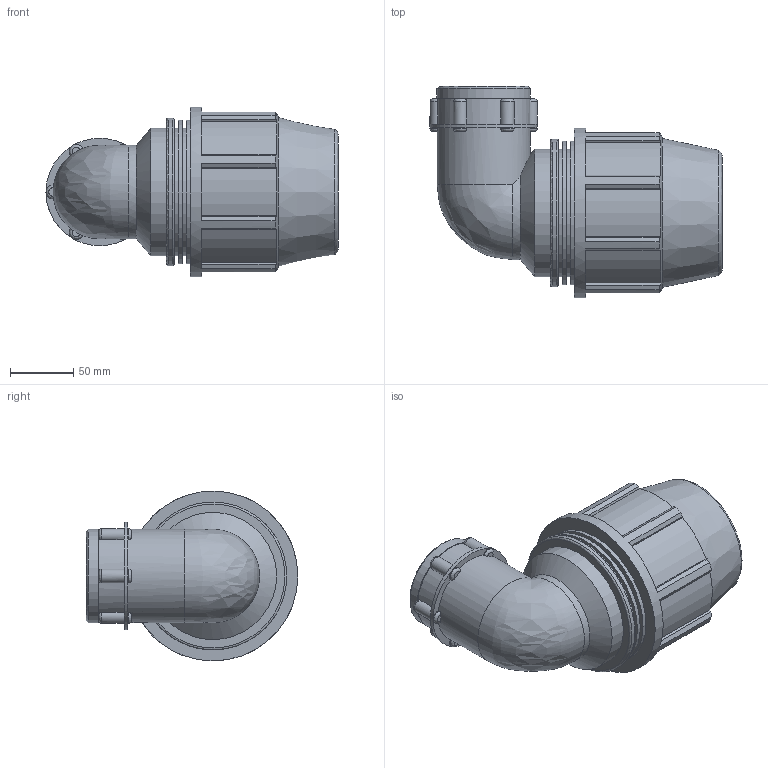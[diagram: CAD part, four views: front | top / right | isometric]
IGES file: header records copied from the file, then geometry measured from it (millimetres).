
Global section: file name: 0715060750200A.ipt; native system: Autodesk Inventor 2015; preprocessor: unknown; author: KIM; date: 20180325.201237; units: millimetre
Bounding box: 230.35 x 167 x 134 mm (x, y, z)
Volume: 1301398.3 mm3; surface area: 174484.2 mm2
Topology: 1 solids, 1 shells, 137 faces, 367 edges, 241 vertices
Faces by surface type: plane 71, cylinder 37, revolution 22, cone 6, bspline 1
Full cylindrical faces by diameter (mm): 73.653 x2, 84.701 x1, 100.5 x3, 113.083 x2, 116.58 x1, 134 x1
